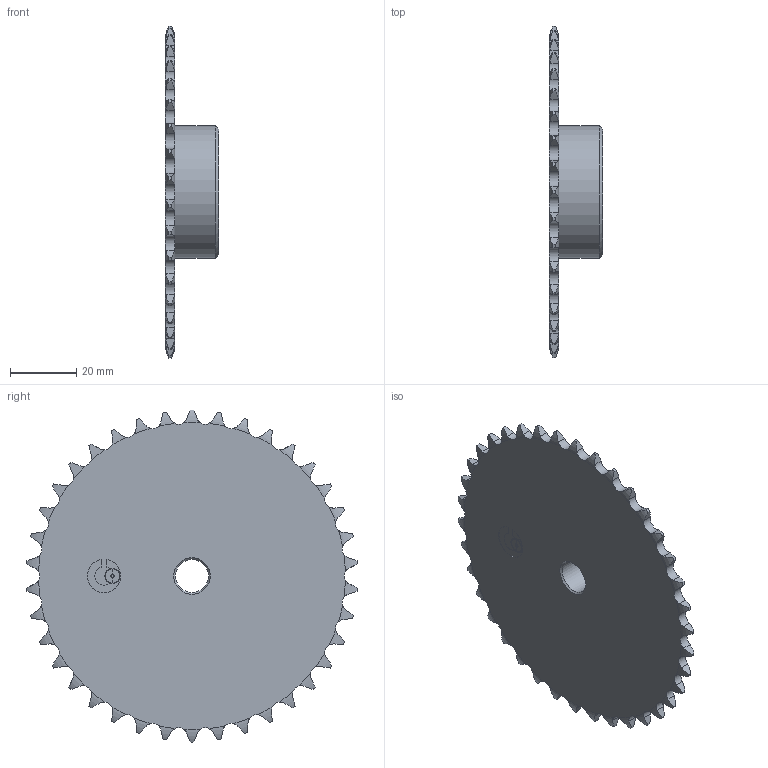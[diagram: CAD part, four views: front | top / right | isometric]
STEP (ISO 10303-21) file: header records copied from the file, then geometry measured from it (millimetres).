
FILE_DESCRIPTION(/* description */ (''),/* implementation_level */ '2;1');
FILE_NAME(/* name */ 'W:\DISEGNI LUCA SALVATAGGIO LOCALE\disegni Fabio Colombo\DISEGNI CATALOGO PIGNONI\PIGNONI ISO606\DIN8187 8x3\DIN8187 8x3 -3D\IPT\10108038.stp',/* time_stamp */ '2022-09-20T12:17:04+02:00',/* author */ ('luca.leone'),/* organization */ (''),/* preprocessor_version */ 'ST-DEVELOPER v19',/* originating_system */ 'Autodesk Inventor 2023',/* authorisation */ '');
FILE_SCHEMA (('AUTOMOTIVE_DESIGN { 1 0 10303 214 3 1 1 }'));
Length unit declared in the file: millimetre
Products named in the file (1): 10108038
Bounding box: 16 x 99.93 x 100.2 mm (x, y, z)
Volume: 34944.3 mm3; surface area: 17173.9 mm2
Topology: 1 solids, 1 shells, 328 faces, 961 edges, 639 vertices
Faces by surface type: cylinder 196, torus 76, plane 53, cone 3
Full cylindrical faces by diameter (mm): 0.834 x1, 10 x1, 40 x1
Entity records: 11843 total; most frequent: CARTESIAN_POINT 3369, ORIENTED_EDGE 1922, DIRECTION 1634, EDGE_CURVE 961, AXIS2_PLACEMENT_3D 648, VERTEX_POINT 639, LINE 338, VECTOR 338
